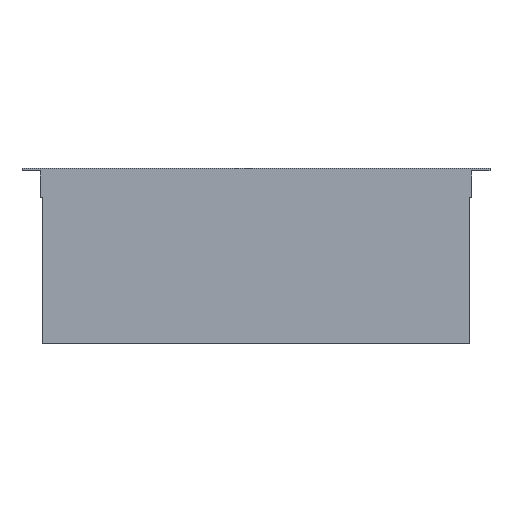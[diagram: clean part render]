
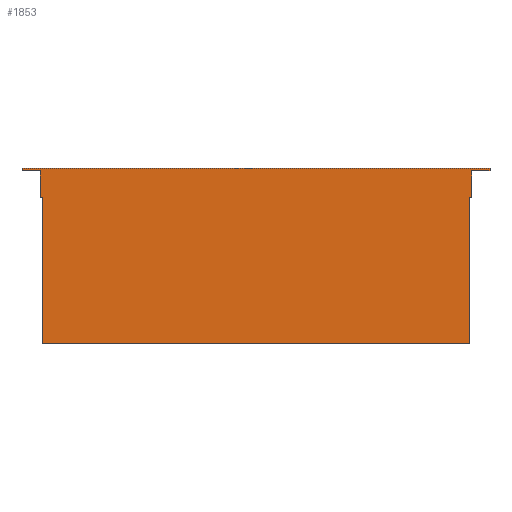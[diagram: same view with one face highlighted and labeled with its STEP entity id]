
A CAD part, top view. The second image highlights one B-rep face of the part: STEP entity #1853.
In plain terms, the highlighted planar face has unit normal (0, 0, 1).
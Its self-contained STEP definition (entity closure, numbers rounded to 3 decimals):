
#32=CARTESIAN_POINT('',(-482.6,180.,44.));
#33=VERTEX_POINT('',#32);
#42=CARTESIAN_POINT('',(0.,180.,44.));
#43=VERTEX_POINT('',#42);
#44=CARTESIAN_POINT('',(0.,180.,44.));
#45=DIRECTION('',(-1.,0.,-0.));
#46=VECTOR('',#45,482.6);
#47=LINE('',#44,#46);
#48=EDGE_CURVE('',#43,#33,#47,.T.);
#1503=CARTESIAN_POINT('',(-482.6,177.5,44.));
#1504=VERTEX_POINT('',#1503);
#1521=CARTESIAN_POINT('',(-463.8,177.5,44.));
#1522=VERTEX_POINT('',#1521);
#1529=CARTESIAN_POINT('',(-482.6,177.5,44.));
#1530=DIRECTION('',(1.,-0.,0.));
#1531=VECTOR('',#1530,18.8);
#1532=LINE('',#1529,#1531);
#1533=EDGE_CURVE('',#1504,#1522,#1532,.T.);
#1632=CARTESIAN_POINT('',(-482.6,180.,44.));
#1633=DIRECTION('',(-0.,-1.,0.));
#1634=VECTOR('',#1633,2.5);
#1635=LINE('',#1632,#1634);
#1636=EDGE_CURVE('',#33,#1504,#1635,.T.);
#1773=CARTESIAN_POINT('',(-482.6,180.,44.));
#1774=DIRECTION('',(0.,-0.,-1.));
#1775=DIRECTION('',(-1.,0.,-0.));
#1776=AXIS2_PLACEMENT_3D('',#1773,#1774,#1775);
#1777=PLANE('',#1776);
#1778=ORIENTED_EDGE('',*,*,#48,.T.);
#1779=ORIENTED_EDGE('',*,*,#1636,.T.);
#1780=ORIENTED_EDGE('',*,*,#1533,.T.);
#1781=CARTESIAN_POINT('',(-463.8,150.,44.));
#1782=VERTEX_POINT('',#1781);
#1783=CARTESIAN_POINT('',(-463.8,177.5,44.));
#1784=DIRECTION('',(-0.,-1.,0.));
#1785=VECTOR('',#1784,27.5);
#1786=LINE('',#1783,#1785);
#1787=EDGE_CURVE('',#1522,#1782,#1786,.T.);
#1788=ORIENTED_EDGE('',*,*,#1787,.T.);
#1789=CARTESIAN_POINT('',(-461.3,150.,44.));
#1790=VERTEX_POINT('',#1789);
#1791=CARTESIAN_POINT('',(-461.3,150.,44.));
#1792=DIRECTION('',(-1.,0.,-0.));
#1793=VECTOR('',#1792,2.5);
#1794=LINE('',#1791,#1793);
#1795=EDGE_CURVE('',#1790,#1782,#1794,.T.);
#1796=ORIENTED_EDGE('',*,*,#1795,.F.);
#1797=CARTESIAN_POINT('',(-461.3,0.,44.));
#1798=VERTEX_POINT('',#1797);
#1799=CARTESIAN_POINT('',(-461.3,0.,44.));
#1800=DIRECTION('',(0.,1.,-0.));
#1801=VECTOR('',#1800,150.);
#1802=LINE('',#1799,#1801);
#1803=EDGE_CURVE('',#1798,#1790,#1802,.T.);
#1804=ORIENTED_EDGE('',*,*,#1803,.F.);
#1805=CARTESIAN_POINT('',(-21.3,0.,44.));
#1806=VERTEX_POINT('',#1805);
#1807=CARTESIAN_POINT('',(-21.3,0.,44.));
#1808=DIRECTION('',(-1.,0.,-0.));
#1809=VECTOR('',#1808,440.);
#1810=LINE('',#1807,#1809);
#1811=EDGE_CURVE('',#1806,#1798,#1810,.T.);
#1812=ORIENTED_EDGE('',*,*,#1811,.F.);
#1813=CARTESIAN_POINT('',(-21.3,150.,44.));
#1814=VERTEX_POINT('',#1813);
#1815=CARTESIAN_POINT('',(-21.3,150.,44.));
#1816=DIRECTION('',(-0.,-1.,0.));
#1817=VECTOR('',#1816,150.);
#1818=LINE('',#1815,#1817);
#1819=EDGE_CURVE('',#1814,#1806,#1818,.T.);
#1820=ORIENTED_EDGE('',*,*,#1819,.F.);
#1821=CARTESIAN_POINT('',(-18.8,150.,44.));
#1822=VERTEX_POINT('',#1821);
#1823=CARTESIAN_POINT('',(-21.3,150.,44.));
#1824=DIRECTION('',(1.,-0.,0.));
#1825=VECTOR('',#1824,2.5);
#1826=LINE('',#1823,#1825);
#1827=EDGE_CURVE('',#1814,#1822,#1826,.T.);
#1828=ORIENTED_EDGE('',*,*,#1827,.T.);
#1829=CARTESIAN_POINT('',(-18.8,177.5,44.));
#1830=VERTEX_POINT('',#1829);
#1831=CARTESIAN_POINT('',(-18.8,177.5,44.));
#1832=DIRECTION('',(-0.,-1.,0.));
#1833=VECTOR('',#1832,27.5);
#1834=LINE('',#1831,#1833);
#1835=EDGE_CURVE('',#1830,#1822,#1834,.T.);
#1836=ORIENTED_EDGE('',*,*,#1835,.F.);
#1837=CARTESIAN_POINT('',(0.,177.5,44.));
#1838=VERTEX_POINT('',#1837);
#1839=CARTESIAN_POINT('',(0.,177.5,44.));
#1840=DIRECTION('',(-1.,0.,-0.));
#1841=VECTOR('',#1840,18.8);
#1842=LINE('',#1839,#1841);
#1843=EDGE_CURVE('',#1838,#1830,#1842,.T.);
#1844=ORIENTED_EDGE('',*,*,#1843,.F.);
#1845=CARTESIAN_POINT('',(0.,180.,44.));
#1846=DIRECTION('',(-0.,-1.,0.));
#1847=VECTOR('',#1846,2.5);
#1848=LINE('',#1845,#1847);
#1849=EDGE_CURVE('',#43,#1838,#1848,.T.);
#1850=ORIENTED_EDGE('',*,*,#1849,.F.);
#1851=EDGE_LOOP('',(#1778,#1779,#1780,#1788,#1796,#1804,#1812,#1820,#1828,#1836,#1844,#1850));
#1852=FACE_BOUND('',#1851,.T.);
#1853=ADVANCED_FACE('',(#1852),#1777,.F.);
